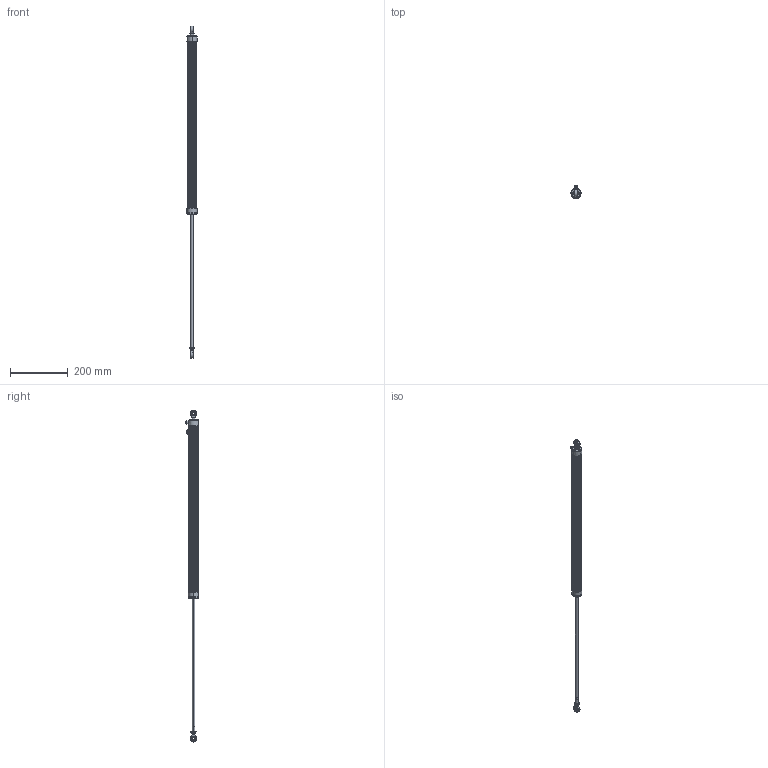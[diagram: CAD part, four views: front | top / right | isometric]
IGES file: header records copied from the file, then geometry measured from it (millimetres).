
Start section: SolidWorks IGES file using analytic representation for surfaces
Global section: file name: I:\Zeichnungen_EK-VM\ZUR BEARBEITUNG\neu_sz\LWX-001\0450.IGS; native system: SolidWorks 2009; preprocessor: SolidWorks 2009; author: salzinger; date: 090128.091408; units: millimetre
Bounding box: 35 x 45.1 x 1152.6 mm (x, y, z)
Volume: 635320.6 mm3; surface area: 127280.6 mm2
Topology: 30 solids, 30 shells, 1046 faces, 5568 edges, 7235 vertices
Faces by surface type: revolution 652, plane 324, bspline 70
